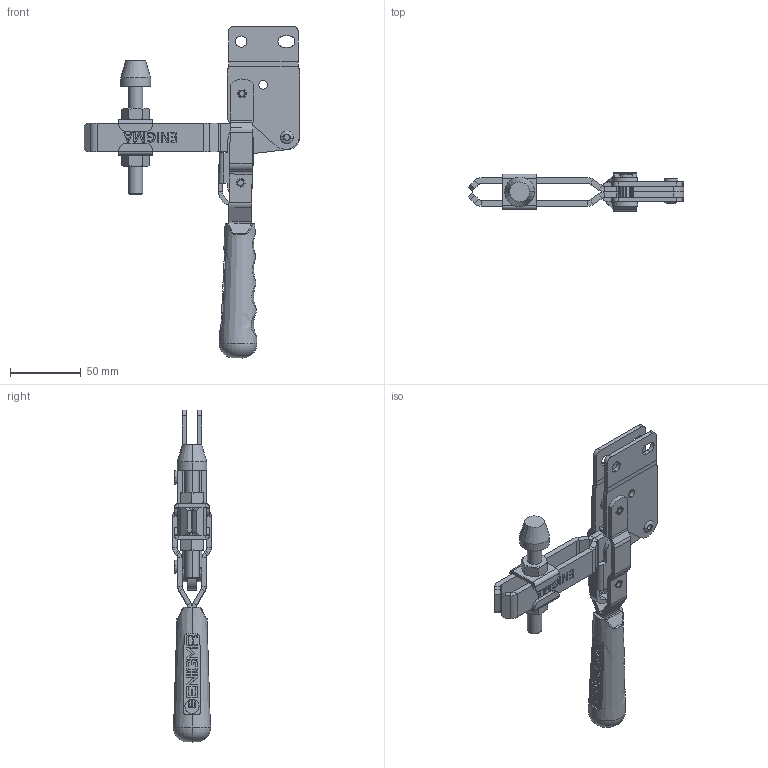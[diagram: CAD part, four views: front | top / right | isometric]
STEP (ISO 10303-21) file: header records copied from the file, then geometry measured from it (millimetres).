
FILE_DESCRIPTION (( 'STEP AP214' ), '1' );
FILE_NAME ('1104-D.STEP', '2022-05-31T12:55:50', ( '' ), ( '' ), 'SwSTEP 2.0', 'SolidWorks 2020', '' );
FILE_SCHEMA (( 'AUTOMOTIVE_DESIGN' ));
Length unit declared in the file: millimetre
Products named in the file (15): C95_Yeni_Tutamak; 1104 MAFSAL; 1104_Y-D_GÖVDE; Aynalama1104_Y-D_GÖVDE; 1104 BASKI KOLU; 10x6x14_BURÇ; 6x23,5_PERﾇﾝN; Baský M10; 1104 HAREKET KOLU; Aynalama1104 BASKI KOLU; 10x6x8_BURÇ; 1104-D; 6x17,5_PERﾇﾝN; M10 Aský; M10 Somun
Assembly tree (21 placements, depth 2):
  1104-D
    1104_Y-D_GÖVDE
    1104 BASKI KOLU
    Aynalama1104 BASKI KOLU
    Aynalama1104_Y-D_GÖVDE
    10x6x8_BURÇ  x2
    10x6x14_BURÇ  x2
    1104 MAFSAL
    1104 HAREKET KOLU  x2
    6x17,5_PERﾇﾝN  x2
    6x23,5_PERﾇﾝN  x2
    C95_Yeni_Tutamak
    M10 Aský  x2
    Baský M10
    M10 Somun  x2
Bounding box: 152.14 x 27 x 234.19 mm (x, y, z)
Volume: 122660.5 mm3; surface area: 77966.3 mm2
Topology: 21 solids, 21 shells, 1234 faces, 3057 edges, 1932 vertices
Faces by surface type: plane 816, cylinder 246, cone 74, bspline 60, torus 36, sphere 2
Entity records: 29424 total; most frequent: CARTESIAN_POINT 7573, ORIENTED_EDGE 4328, DIRECTION 4145, EDGE_CURVE 2164, VECTOR 1473, LINE 1473, VERTEX_POINT 1376, AXIS2_PLACEMENT_3D 1336
